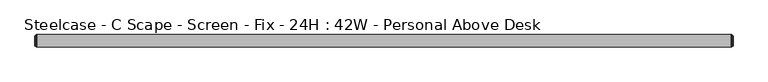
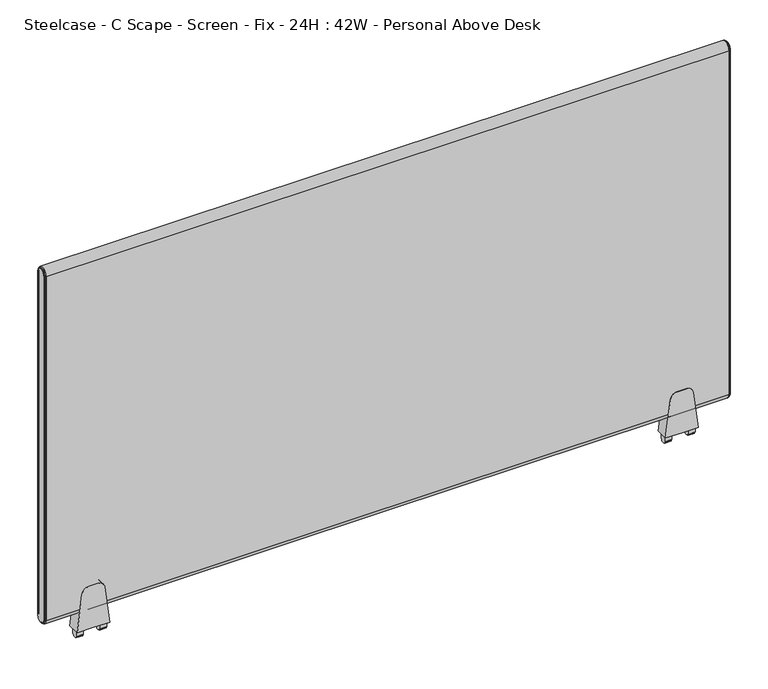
"""IFC4 building model written with IfcOpenShell, lengths in millimetres: furniture geometry, Steelcase - C Scape - Screen - Fix - 24H : 42W - Personal Above Desk."""

from ifc_helpers import new_model, si_unit, point, frame, frame_2d, origin, place, context, project, spatial, polyline, circle_curve, ellipse_curve, trimmed, segment, composite_curve, outline, extrude, source, transform, mapped, element, save
from ifc_brep_helpers import plane_surface, cylinder_surface, revolved_surface, advanced_brep


def steelcase_c_scape_screen_fix_24h_42w_personal_above_desk_664cd82d(model_context):
    return source(origin(), model_context, "Body", "SolidModel", [
        extrude(outline(composite_curve([segment(polyline([(723.811112, 101.4730434), (784.1362421, 94.0661495)]), True, "CONTINUOUS"), segment(trimmed(circle_curve(frame_2d((782.8143718, 83.300233)), 10.8467645), [point((784.1362421, 94.0661495))], [point((793.6611362, 83.300233))], False, "CARTESIAN"), True, "CONTINUOUS"), segment(polyline([(793.6611362, 83.300233), (793.6611362, 76.2001674), (793.6611362, 69.1001018)]), True, "CONTINUOUS"), segment(trimmed(circle_curve(frame_2d((782.8143718, 69.1001018)), 10.8467645), [point((793.6611362, 69.1001018))], [point((784.1362421, 58.3341853))], False, "CARTESIAN"), True, "CONTINUOUS"), segment(polyline([(784.1362421, 58.3341853), (723.811112, 50.9272915), (723.811112, 76.2001674), (723.811112, 101.4730434)]), True, "CONTINUOUS")], self_intersect=False)), frame((0.0, -9.525, 0.0), z_axis=(0.0, 1.0, 0.0), x_axis=(0.0, 0.0, 1.0)), (0.0, 0.0, 1.0), 19.05),
        extrude(outline(polyline([(4.5465975, 723.811112), (4.5465975, 713.9051033), (4.0139265, 713.0186748), (2.9972008, 713.0186748), (2.9972008, 710.7834188), (0.0, 710.692), (-2.9972008, 710.7834188), (-2.9972008, 713.0186748), (-4.0139265, 713.0186748), (-4.5465975, 713.9051033), (-4.5465975, 723.811112), (0.0, 723.811112), (4.5465975, 723.811112)])), frame((88.9267162, 0.0, 0.0), z_axis=(1.0, 0.0, 0.0), x_axis=(0.0, 1.0, 0.0)), (0.0, 0.0, 1.0), 10.7813187),
        extrude(outline(polyline([(4.5465975, 723.811112), (4.5465975, 713.9051033), (4.0139265, 713.0186748), (2.9972008, 713.0186748), (2.9972008, 710.7834188), (0.0, 710.692), (-2.9972008, 710.7834188), (-2.9972008, 713.0186748), (-4.0139265, 713.0186748), (-4.5465975, 713.9051033), (-4.5465975, 723.811112), (0.0, 723.811112), (4.5465975, 723.811112)])), frame((52.6923, 0.0, 0.0), z_axis=(1.0, 0.0, 0.0), x_axis=(0.0, 1.0, 0.0)), (0.0, 0.0, 1.0), 10.7813187),
        extrude(outline(composite_curve([segment(polyline([(723.811112, 1015.1107132), (784.1362421, 1007.7038193)]), True, "CONTINUOUS"), segment(trimmed(circle_curve(frame_2d((782.8143718, 996.9379028)), 10.8467645), [point((784.1362421, 1007.7038193))], [point((793.6611362, 996.9379028))], False, "CARTESIAN"), True, "CONTINUOUS"), segment(polyline([(793.6611362, 996.9379028), (793.6611362, 989.8378372), (793.6611362, 982.7377716)]), True, "CONTINUOUS"), segment(trimmed(circle_curve(frame_2d((782.8143718, 982.7377716)), 10.8467645), [point((793.6611362, 982.7377716))], [point((784.1362421, 971.9718551))], False, "CARTESIAN"), True, "CONTINUOUS"), segment(polyline([(784.1362421, 971.9718551), (723.811112, 964.5649612), (723.811112, 989.8378372), (723.811112, 1015.1107132)]), True, "CONTINUOUS")], self_intersect=False)), frame((0.0, -9.525, 0.0), z_axis=(0.0, 1.0, 0.0), x_axis=(0.0, 0.0, 1.0)), (0.0, 0.0, 1.0), 19.05),
        extrude(outline(polyline([(4.5465975, 723.811112), (4.5465975, 713.9051033), (4.0139265, 713.0186748), (2.9972008, 713.0186748), (2.9972008, 710.7834188), (0.0, 710.692), (-2.9972008, 710.7834188), (-2.9972008, 713.0186748), (-4.0139265, 713.0186748), (-4.5465975, 713.9051033), (-4.5465975, 723.811112), (0.0, 723.811112), (4.5465975, 723.811112)])), frame((1002.564386, 0.0, 0.0), z_axis=(1.0, 0.0, 0.0), x_axis=(0.0, 1.0, 0.0)), (0.0, 0.0, 1.0), 10.7813187),
        extrude(outline(polyline([(4.5465975, 723.811112), (4.5465975, 713.9051033), (4.0139265, 713.0186748), (2.9972008, 713.0186748), (2.9972008, 710.7834188), (0.0, 710.692), (-2.9972008, 710.7834188), (-2.9972008, 713.0186748), (-4.0139265, 713.0186748), (-4.5465975, 713.9051033), (-4.5465975, 723.811112), (0.0, 723.811112), (4.5465975, 723.811112)])), frame((966.3299698, 0.0, 0.0), z_axis=(1.0, 0.0, 0.0), x_axis=(0.0, 1.0, 0.0)), (0.0, 0.0, 1.0), 10.7813187),
        advanced_brep(
        [(1063.2486613, -9.525, 1326.007), (1063.2486613, 9.525, 1326.007), (1063.2486613, 9.525, 760.857), (1063.2486613, -9.525, 760.857), (1066.0426613, 7.4929583, 1326.007), (1066.0426613, -7.4929583, 1326.007), (1066.0426613, -7.4929583, 760.857), (1066.0426613, 7.4929583, 760.857), (1065.5346545, -8.0009651, 1326.007), (1065.5346545, 8.0009651, 1326.007), (1064.2646613, 8.0009651, 1326.007), (1064.2646613, -8.0009651, 1326.007), (1064.2646613, -8.8204932, 1326.007), (1064.2646613, 8.8204932, 1326.007), (1064.2646613, -8.0009651, 760.857), (1065.5346545, -8.0009651, 760.857), (1064.2646613, -8.8204932, 760.857), (1064.2646613, 8.0009651, 760.857), (1065.5346545, 8.0009651, 760.857), (1064.2646613, 8.8204932, 760.857)],
        [
            (0, 1, circle_curve(frame((1063.2486613, 0.0, 1326.007), z_axis=(-1.0, 0.0, 0.0), x_axis=(0.0, 1.0, 0.0)), 9.525)),
            (1, 2),
            (2, 3, circle_curve(frame((1063.2486613, 0.0, 760.857), z_axis=(-1.0, 0.0, 0.0), x_axis=(0.0, -1.0, 0.0)), 9.525)),
            (3, 0),
            (4, 5, circle_curve(frame((1066.0426613, 0.0, 1326.007), z_axis=(1.0, 0.0, 0.0), x_axis=(0.0, 1.0, 0.0)), 7.4929583)),
            (5, 6),
            (6, 7, circle_curve(frame((1066.0426613, 0.0, 760.857), z_axis=(1.0, 0.0, 0.0), x_axis=(0.0, -1.0, 0.0)), 7.4929583)),
            (7, 4),
            (8, 9, circle_curve(frame((1065.5346545, 0.0, 1326.007), z_axis=(-1.0, 0.0, 0.0), x_axis=(0.0, 1.0, 0.0)), 8.0009651)),
            (9, 10),
            (10, 11, circle_curve(frame((1064.2646613, 0.0, 1326.007), z_axis=(1.0, 0.0, 0.0), x_axis=(0.0, 1.0, 0.0)), 8.0009651)),
            (11, 8),
            (8, 5, circle_curve(frame((1065.5346545, -7.4929583, 1326.007), z_axis=(0.0, 0.0, 1.0), x_axis=(0.0, -1.0, 0.0)), 0.5080068)),
            (4, 9, circle_curve(frame((1065.5346545, 7.4929583, 1326.007), z_axis=(0.0, 0.0, 1.0), x_axis=(0.0, 1.0, 0.0)), 0.5080068)),
            (12, 13, circle_curve(frame((1064.2646613, 0.0, 1326.007), z_axis=(-1.0, 0.0, 0.0), x_axis=(0.0, 1.0, 0.0)), 8.8204932)),
            (13, 1, circle_curve(frame((1063.1806211, 8.3420139, 1326.007), z_axis=(0.0, 0.0, 1.0), x_axis=(0.0, 1.0, 0.0)), 1.1849411)),
            (0, 12, circle_curve(frame((1063.1806211, -8.3420139, 1326.007), z_axis=(0.0, 0.0, 1.0), x_axis=(0.0, -1.0, 0.0)), 1.1849411)),
            (11, 14),
            (14, 15),
            (15, 8),
            (15, 6, circle_curve(frame((1065.5346545, -7.4929583, 760.857), z_axis=(0.0, 0.0, 1.0), x_axis=(0.0, -1.0, 0.0)), 0.5080068)),
            (3, 16, circle_curve(frame((1063.1806211, -8.3420139, 760.857), z_axis=(0.0, 0.0, 1.0), x_axis=(0.0, -1.0, 0.0)), 1.1849411)),
            (16, 12),
            (14, 17, circle_curve(frame((1064.2646613, 0.0, 760.857), z_axis=(1.0, 0.0, 0.0), x_axis=(0.0, -1.0, 0.0)), 8.0009651)),
            (17, 18),
            (18, 15, circle_curve(frame((1065.5346545, 0.0, 760.857), z_axis=(-1.0, 0.0, 0.0), x_axis=(0.0, -1.0, 0.0)), 8.0009651)),
            (18, 7, circle_curve(frame((1065.5346545, 7.4929583, 760.857), z_axis=(0.0, 0.0, -1.0), x_axis=(0.0, 1.0, 0.0)), 0.5080068)),
            (2, 19, circle_curve(frame((1063.1806211, 8.3420139, 760.857), z_axis=(0.0, 0.0, -1.0), x_axis=(0.0, 1.0, 0.0)), 1.1849411)),
            (19, 16, circle_curve(frame((1064.2646613, 0.0, 760.857), z_axis=(-1.0, 0.0, 0.0), x_axis=(0.0, -1.0, 0.0)), 8.8204932)),
            (9, 18),
            (17, 10),
            (13, 19),
        ],
        [
            plane_surface(frame((1063.2486613, -6.3509705, 1326.007), z_axis=(-1.0, 0.0, 0.0), x_axis=(0.0, 0.0, 1.0))),
            plane_surface(frame((1066.0426613, -6.3509705, 1326.007), z_axis=(1.0, 0.0, 0.0), x_axis=(0.0, 0.0, -1.0))),
            cylinder_surface(frame((1063.2486613, 0.0, 1326.007), z_axis=(1.0, 0.0, 0.0), x_axis=(0.0, 1.0, 0.0)), 8.0009651),
            revolved_surface(trimmed(ellipse_curve(frame((1065.5346545, 7.4929583, 1326.007), z_axis=(0.0, 0.0, -1.0), x_axis=(0.0, 1.0, 0.0)), 0.5080068, 0.5080068), [point((1065.5346545, 8.0009651, 1326.007))], [point((1066.0426613, 7.4929583, 1326.007))], True, "CARTESIAN"), (1063.2486613, 0.0, 1326.007), (1.0, 0.0, 0.0)),
            revolved_surface(trimmed(ellipse_curve(frame((1063.1806211, 8.3420139, 1326.007), z_axis=(0.0, 0.0, -1.0), x_axis=(0.0, 1.0, 0.0)), 1.1849411, 1.1849411), [point((1063.2486613, 9.525, 1326.007))], [point((1064.2646613, 8.8204932, 1326.007))], True, "CARTESIAN"), (1063.2486613, 0.0, 1326.007), (1.0, 0.0, 0.0)),
            plane_surface(frame((1064.2646613, -8.0009651, 1326.007), z_axis=(0.0, -1.0, 0.0), x_axis=(0.0, 0.0, -1.0))),
            cylinder_surface(frame((1065.5346545, -7.4929583, 1326.007), z_axis=(0.0, 0.0, 1.0), x_axis=(0.0, -1.0, 0.0)), 0.5080068),
            cylinder_surface(frame((1063.1806211, -8.3420139, 1326.007), z_axis=(0.0, 0.0, 1.0), x_axis=(0.0, -1.0, 0.0)), 1.1849411),
            cylinder_surface(frame((1063.2486613, 0.0, 760.857), z_axis=(1.0, 0.0, 0.0), x_axis=(0.0, -1.0, 0.0)), 8.0009651),
            revolved_surface(trimmed(ellipse_curve(frame((1065.5346545, -7.4929583, 760.857), z_axis=(0.0, 0.0, 1.0), x_axis=(0.0, -1.0, 0.0)), 0.5080068, 0.5080068), [point((1065.5346545, -8.0009651, 760.857))], [point((1066.0426613, -7.4929583, 760.857))], True, "CARTESIAN"), (1063.2486613, 0.0, 760.857), (1.0, 0.0, 0.0)),
            revolved_surface(trimmed(ellipse_curve(frame((1063.1806211, -8.3420139, 760.857), z_axis=(0.0, 0.0, 1.0), x_axis=(0.0, -1.0, 0.0)), 1.1849411, 1.1849411), [point((1063.2486613, -9.525, 760.857))], [point((1064.2646613, -8.8204932, 760.857))], True, "CARTESIAN"), (1063.2486613, 0.0, 760.857), (1.0, 0.0, 0.0)),
            plane_surface(frame((1064.2646613, 8.0009651, 760.857), z_axis=(0.0, 1.0, 0.0), x_axis=(0.0, 0.0, 1.0))),
            cylinder_surface(frame((1065.5346545, 7.4929583, 760.857), z_axis=(0.0, 0.0, -1.0), x_axis=(0.0, 1.0, 0.0)), 0.5080068),
            cylinder_surface(frame((1063.1806211, 8.3420139, 760.857), z_axis=(0.0, 0.0, -1.0), x_axis=(0.0, 1.0, 0.0)), 1.1849411),
            plane_surface(frame((1064.2646613, 8.8204932, 760.857), z_axis=(1.0, 0.0, 0.0), x_axis=(0.0, 0.0, 1.0))),
        ],
        [
            (0, [[1, 2, 3, 4]]),
            (1, [[5, 6, 7, 8]]),
            (2, [[9, 10, 11, 12]]),
            (3, [[-9, 13, -5, 14]]),
            (4, [[15, 16, -1, 17]]),
            (5, [[-12, 18, 19, 20]]),
            (6, [[-13, -20, 21, -6]]),
            (7, [[-17, -4, 22, 23]]),
            (8, [[-19, 24, 25, 26]]),
            (9, [[-21, -26, 27, -7]]),
            (10, [[-22, -3, 28, 29]]),
            (11, [[-10, 30, -25, 31]]),
            (12, [[-14, -8, -27, -30]]),
            (13, [[-16, 32, -28, -2]]),
            (14, [[-15, -23, -29, -32], [-11, -31, -24, -18]]),
        ],
    ),
        advanced_brep(
        [(2.7940155, 9.525, 1326.007), (2.7940155, -9.525, 1326.007), (2.7940155, -9.525, 760.857), (2.7940155, 9.525, 760.857), (0.0, -7.4929583, 1326.007), (0.0, 7.4929583, 1326.007), (0.0, 7.4929583, 760.857), (0.0, -7.4929583, 760.857), (1.778, 8.8204932, 1326.007), (1.778, -8.8204932, 1326.007), (0.5080068, -8.0009651, 1326.007), (0.5080068, 8.0009651, 1326.007), (1.778, -8.0009651, 1326.007), (1.778, 8.0009651, 1326.007), (1.778, -8.8204932, 760.857), (0.5080068, -8.0009651, 760.857), (1.778, -8.0009651, 760.857), (1.778, 8.8204932, 760.857), (0.5080068, 8.0009651, 760.857), (1.778, 8.0009651, 760.857)],
        [
            (0, 1, circle_curve(frame((2.7940155, 0.0, 1326.007), z_axis=(1.0, 0.0, 0.0), x_axis=(0.0, 1.0, 0.0)), 9.525)),
            (1, 2),
            (2, 3, circle_curve(frame((2.7940155, 0.0, 760.857), z_axis=(1.0, 0.0, 0.0), x_axis=(0.0, -1.0, 0.0)), 9.525)),
            (3, 0),
            (4, 5, circle_curve(frame((0.0, 0.0, 1326.007), z_axis=(-1.0, 0.0, 0.0), x_axis=(0.0, 1.0, 0.0)), 7.4929583)),
            (5, 6),
            (6, 7, circle_curve(frame((0.0, 0.0, 760.857), z_axis=(-1.0, 0.0, 0.0), x_axis=(0.0, -1.0, 0.0)), 7.4929583)),
            (7, 4),
            (0, 8, circle_curve(frame((2.8620402, 8.3420139, 1326.007), z_axis=(0.0, 0.0, 1.0), x_axis=(0.0, -1.0, 0.0)), 1.1849411)),
            (8, 9, circle_curve(frame((1.778, 0.0, 1326.007), z_axis=(1.0, 0.0, 0.0), x_axis=(0.0, 1.0, 0.0)), 8.8204932)),
            (9, 1, circle_curve(frame((2.8620402, -8.3420139, 1326.007), z_axis=(0.0, 0.0, 1.0), x_axis=(0.0, 1.0, 0.0)), 1.1849411)),
            (10, 11, circle_curve(frame((0.5080068, 0.0, 1326.007), z_axis=(-1.0, 0.0, 0.0), x_axis=(0.0, 1.0, 0.0)), 8.0009651)),
            (11, 5, circle_curve(frame((0.5080068, 7.4929583, 1326.007), z_axis=(0.0, 0.0, 1.0), x_axis=(0.0, -1.0, 0.0)), 0.5080068)),
            (4, 10, circle_curve(frame((0.5080068, -7.4929583, 1326.007), z_axis=(0.0, 0.0, 1.0), x_axis=(0.0, 1.0, 0.0)), 0.5080068)),
            (10, 12),
            (12, 13, circle_curve(frame((1.778, 0.0, 1326.007), z_axis=(-1.0, 0.0, 0.0), x_axis=(0.0, 1.0, 0.0)), 8.0009651)),
            (13, 11),
            (9, 14),
            (14, 2, circle_curve(frame((2.8620402, -8.3420139, 760.857), z_axis=(0.0, 0.0, 1.0), x_axis=(0.0, 1.0, 0.0)), 1.1849411)),
            (7, 15, circle_curve(frame((0.5080068, -7.4929583, 760.857), z_axis=(0.0, 0.0, 1.0), x_axis=(0.0, 1.0, 0.0)), 0.5080068)),
            (15, 10),
            (15, 16),
            (16, 12),
            (14, 17, circle_curve(frame((1.778, 0.0, 760.857), z_axis=(1.0, 0.0, 0.0), x_axis=(0.0, -1.0, 0.0)), 8.8204932)),
            (17, 3, circle_curve(frame((2.8620402, 8.3420139, 760.857), z_axis=(0.0, 0.0, -1.0), x_axis=(0.0, -1.0, 0.0)), 1.1849411)),
            (6, 18, circle_curve(frame((0.5080068, 7.4929583, 760.857), z_axis=(0.0, 0.0, -1.0), x_axis=(0.0, -1.0, 0.0)), 0.5080068)),
            (18, 15, circle_curve(frame((0.5080068, 0.0, 760.857), z_axis=(-1.0, 0.0, 0.0), x_axis=(0.0, -1.0, 0.0)), 8.0009651)),
            (18, 19),
            (19, 16, circle_curve(frame((1.778, 0.0, 760.857), z_axis=(-1.0, 0.0, 0.0), x_axis=(0.0, -1.0, 0.0)), 8.0009651)),
            (8, 17),
            (19, 13),
            (11, 18),
        ],
        [
            plane_surface(frame((2.7940155, -6.3509705, 1326.007), z_axis=(1.0, 0.0, 0.0), x_axis=(0.0, 0.0, -1.0))),
            plane_surface(frame((0.0, -6.3509705, 1326.007), z_axis=(-1.0, 0.0, 0.0), x_axis=(0.0, 0.0, 1.0))),
            revolved_surface(trimmed(ellipse_curve(frame((2.8620402, 8.3420139, 1326.007), z_axis=(0.0, 0.0, -1.0), x_axis=(0.0, -1.0, 0.0)), 1.1849411, 1.1849411), [point((1.778, 8.8204932, 1326.007))], [point((2.794, 9.525, 1326.007))], True, "CARTESIAN"), (2.794, 0.0, 1326.007), (1.0, 0.0, 0.0)),
            revolved_surface(trimmed(ellipse_curve(frame((0.5080068, 7.4929583, 1326.007), z_axis=(0.0, 0.0, -1.0), x_axis=(0.0, -1.0, 0.0)), 0.5080068, 0.5080068), [point((0.0, 7.4929583, 1326.007))], [point((0.5080068, 8.0009651, 1326.007))], True, "CARTESIAN"), (2.794, 0.0, 1326.007), (1.0, 0.0, 0.0)),
            cylinder_surface(frame((2.794, 0.0, 1326.007), z_axis=(1.0, 0.0, 0.0), x_axis=(0.0, 1.0, 0.0)), 8.0009651),
            cylinder_surface(frame((2.8620402, -8.3420139, 1326.007), z_axis=(0.0, 0.0, 1.0), x_axis=(0.0, 1.0, 0.0)), 1.1849411),
            cylinder_surface(frame((0.5080068, -7.4929583, 1326.007), z_axis=(0.0, 0.0, 1.0), x_axis=(0.0, 1.0, 0.0)), 0.5080068),
            plane_surface(frame((0.5080068, -8.0009651, 1326.007), z_axis=(0.0, -1.0, 0.0), x_axis=(0.0, 0.0, -1.0))),
            revolved_surface(trimmed(ellipse_curve(frame((2.8620402, -8.3420139, 760.857), z_axis=(0.0, 0.0, 1.0), x_axis=(0.0, 1.0, 0.0)), 1.1849411, 1.1849411), [point((1.778, -8.8204932, 760.857))], [point((2.794, -9.525, 760.857))], True, "CARTESIAN"), (2.794, 0.0, 760.857), (1.0, 0.0, 0.0)),
            revolved_surface(trimmed(ellipse_curve(frame((0.5080068, -7.4929583, 760.857), z_axis=(0.0, 0.0, 1.0), x_axis=(0.0, 1.0, 0.0)), 0.5080068, 0.5080068), [point((0.0, -7.4929583, 760.857))], [point((0.5080068, -8.0009651, 760.857))], True, "CARTESIAN"), (2.794, 0.0, 760.857), (1.0, 0.0, 0.0)),
            cylinder_surface(frame((2.794, 0.0, 760.857), z_axis=(1.0, 0.0, 0.0), x_axis=(0.0, -1.0, 0.0)), 8.0009651),
            plane_surface(frame((1.778, 8.0009651, 760.857), z_axis=(-1.0, 0.0, 0.0), x_axis=(0.0, 0.0, 1.0))),
            cylinder_surface(frame((2.8620402, 8.3420139, 760.857), z_axis=(0.0, 0.0, -1.0), x_axis=(0.0, -1.0, 0.0)), 1.1849411),
            cylinder_surface(frame((0.5080068, 7.4929583, 760.857), z_axis=(0.0, 0.0, -1.0), x_axis=(0.0, -1.0, 0.0)), 0.5080068),
            plane_surface(frame((0.5080068, 8.0009651, 760.857), z_axis=(0.0, 1.0, 0.0), x_axis=(0.0, 0.0, 1.0))),
        ],
        [
            (0, [[1, 2, 3, 4]]),
            (1, [[5, 6, 7, 8]]),
            (2, [[-1, 9, 10, 11]]),
            (3, [[12, 13, -5, 14]]),
            (4, [[-12, 15, 16, 17]]),
            (5, [[-11, 18, 19, -2]]),
            (6, [[-14, -8, 20, 21]]),
            (7, [[-15, -21, 22, 23]]),
            (8, [[-19, 24, 25, -3]]),
            (9, [[-20, -7, 26, 27]]),
            (10, [[-22, -27, 28, 29]]),
            (11, [[-10, 30, -24, -18], [-16, -23, -29, 31]]),
            (12, [[-9, -4, -25, -30]]),
            (13, [[-13, 32, -26, -6]]),
            (14, [[-17, -31, -28, -32]]),
        ],
    ),
        extrude(outline(composite_curve([segment(trimmed(circle_curve(frame_2d((0.0, 1326.007)), 9.525), [point((-9.525, 1326.007))], [point((9.525, 1326.007))], False, "CARTESIAN"), True, "CONTINUOUS"), segment(polyline([(9.525, 1326.007), (9.525, 760.857)]), True, "CONTINUOUS"), segment(trimmed(circle_curve(frame_2d((0.0, 760.857)), 9.525), [point((9.525, 760.857))], [point((-9.525, 760.857))], False, "CARTESIAN"), True, "CONTINUOUS"), segment(polyline([(-9.525, 760.857), (-9.525, 1326.007)]), True, "CONTINUOUS")], self_intersect=False)), frame((2.794, 0.0, 0.0), z_axis=(1.0, 0.0, 0.0), x_axis=(0.0, 1.0, 0.0)), (0.0, 0.0, 1.0), 1060.4546613),
    ])


if __name__ == "__main__":
    model = new_model("IFC4")
    model_context = context("Model", 3, world=origin())
    ifc_project = project(units=[si_unit("LENGTHUNIT", "METRE", prefix="MILLI")], contexts=[model_context])
    site = spatial("IfcSite", under=ifc_project)
    building = spatial("IfcBuilding", under=site)
    placement = place(None, origin())
    steelcase_c_scape_screen_fix_24h_42w_personal_above_desk_shape = steelcase_c_scape_screen_fix_24h_42w_personal_above_desk_664cd82d(model_context)
    element("IfcFurniture", 1, ObjectType="Steelcase - C Scape - Screen - Fix - 24H : 42W - Personal Above Desk", at=placement, inside=building, context=model_context, shape_type="MappedRepresentation", body=[
        mapped(steelcase_c_scape_screen_fix_24h_42w_personal_above_desk_shape, transform((0.0, 0.0, 0.0), x_axis=(1.0, 0.0, 0.0), y_axis=(0.0, 1.0, 0.0), z_axis=(0.0, 0.0, 1.0))),
    ])
    save(model, "model.ifc")
